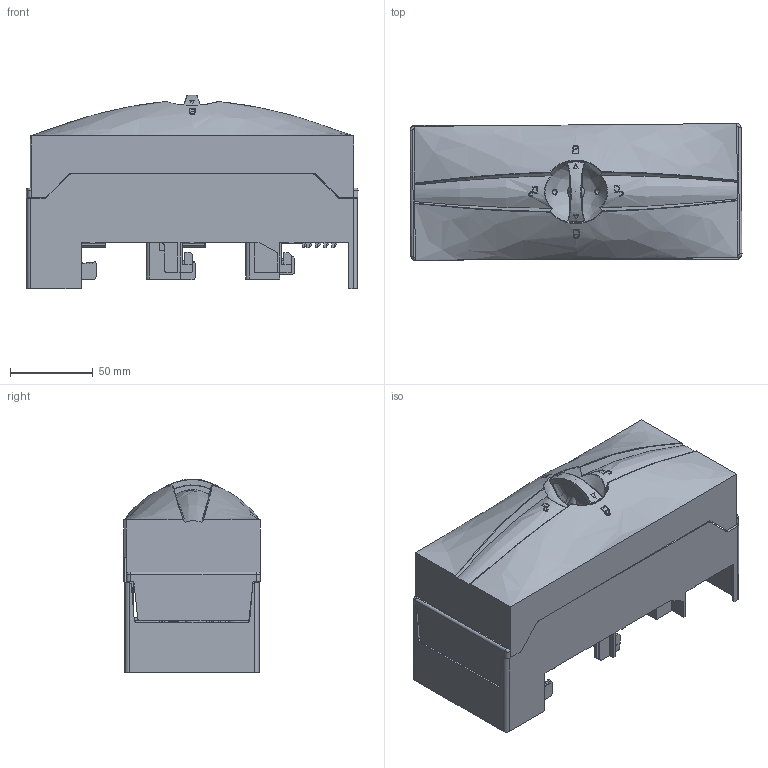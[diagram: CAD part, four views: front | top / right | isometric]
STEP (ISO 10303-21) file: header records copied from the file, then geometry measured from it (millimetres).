
FILE_DESCRIPTION (( 'STEP AP203' ), '1' );
FILE_NAME ('54243.STEP', '2021-08-13T03:03:25', ( '' ), ( '' ), 'SwSTEP 2.0', 'SolidWorks 2017', '' );
FILE_SCHEMA (( 'CONFIG_CONTROL_DESIGN' ));
Length unit declared in the file: millimetre
Products named in the file (2): 54243
Bounding box: 200.66 x 82.7 x 117.2 mm (x, y, z)
Surface area: 221259.8 mm2 (no closed solid volume)
Topology: 0 solids, 17 shells, 3664 faces, 10303 edges, 6759 vertices
Faces by surface type: plane 2922, cylinder 536, bspline 145, cone 59, torus 2
Full cylindrical faces by diameter (mm): 2 x3, 4 x6, 4.3 x3, 6.5 x3, 7 x3, 8 x3, 9 x6, 10 x3, 14 x1, 14.6 x1, 18 x1
Entity records: 129950 total; most frequent: CARTESIAN_POINT 36898, ORIENTED_EDGE 20382, DIRECTION 17481, EDGE_CURVE 10195, VECTOR 8441, LINE 8441, VERTEX_POINT 6723, AXIS2_PLACEMENT_3D 4520
